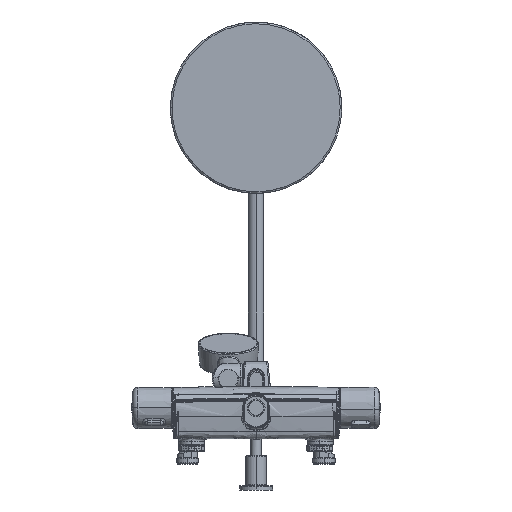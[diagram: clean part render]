
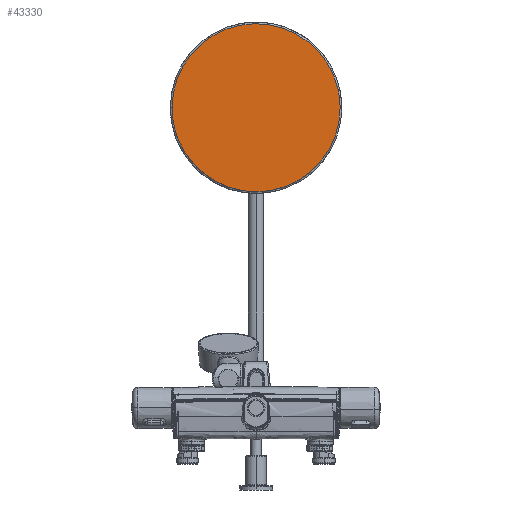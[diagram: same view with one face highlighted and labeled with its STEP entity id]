
A CAD part, front view. The second image highlights one B-rep face of the part: STEP entity #43330.
In plain terms, the highlighted planar face has unit normal (0, -1, 0).
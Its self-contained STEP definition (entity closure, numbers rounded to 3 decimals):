
#387 = CARTESIAN_POINT ( 'NONE',  ( 77.921, 984.9, 409.779 ) ) ;
#780 = CARTESIAN_POINT ( 'NONE',  ( 94.866, 984.9, 375.41 ) ) ;
#3713 = CARTESIAN_POINT ( 'NONE',  ( 25.41, 984.9, 255.134 ) ) ;
#3907 = CARTESIAN_POINT ( 'NONE',  ( 31.577, 984.9, 257.005 ) ) ;
#5060 = CARTESIAN_POINT ( 'NONE',  ( -98., 984.9, 356.414 ) ) ;
#6749 = EDGE_CURVE ( 'NONE', #31972, #8617, #25118, .T. ) ;
#8617 = VERTEX_POINT ( 'NONE', #41503 ) ;
#8777 = CARTESIAN_POINT ( 'NONE',  ( 59.779, 984.9, 272.079 ) ) ;
#9366 = CARTESIAN_POINT ( 'NONE',  ( -85.048, 984.9, 399.113 ) ) ;
#9748 = CARTESIAN_POINT ( 'NONE',  ( -12.828, 984.9, 447.368 ) ) ;
#9956 = CARTESIAN_POINT ( 'NONE',  ( -49.113, 984.9, 435.048 ) ) ;
#10158 = CARTESIAN_POINT ( 'NONE',  ( -92.995, 984.9, 381.577 ) ) ;
#11178 = B_SPLINE_CURVE_WITH_KNOTS ( 'NONE', 3,
 ( #54489, #50019, #59831, #41828, #31706, #22511, #55309, #50221, #54906, #27662, #8777, #22095, #12869, #3907, #3713, #17794, #37082, #27233, #31924, #26826, #36487, #46153, #50829, #59623, #51044, #45951, #41209, #55521, #13093, #60041, #50624, #13702, #36678, #13492 ),
 .UNSPECIFIED., .F., .F.,
 ( 4, 2, 2, 2, 2, 2, 2, 2, 2, 2, 2, 2, 2, 2, 2, 2, 4 ),
 ( 0., 0.031, 0.063, 0.094, 0.125, 0.156, 0.188, 0.219, 0.25, 0.281, 0.313, 0.344, 0.375, 0.406, 0.438, 0.469, 0.5 ),
 .UNSPECIFIED. ) ;
#12869 = CARTESIAN_POINT ( 'NONE',  ( 43.429, 984.9, 261.914 ) ) ;
#13093 = CARTESIAN_POINT ( 'NONE',  ( -88.086, 984.9, 306.571 ) ) ;
#13492 = CARTESIAN_POINT ( 'NONE',  ( -98., 984.9, 350. ) ) ;
#13702 = CARTESIAN_POINT ( 'NONE',  ( -97.368, 984.9, 337.172 ) ) ;
#14050 = DIRECTION ( 'NONE',  ( 1., 0., 0. ) ) ;
#14079 = CARTESIAN_POINT ( 'NONE',  ( 43.429, 984.9, 438.086 ) ) ;
#14106 = CARTESIAN_POINT ( 'NONE',  ( -98., 984.9, 350. ) ) ;
#14821 = CARTESIAN_POINT ( 'NONE',  ( 0., 984.9, 350. ) ) ;
#14852 = CARTESIAN_POINT ( 'NONE',  ( -77.921, 984.9, 409.779 ) ) ;
#17794 = CARTESIAN_POINT ( 'NONE',  ( 12.828, 984.9, 252.632 ) ) ;
#17899 = EDGE_LOOP ( 'NONE', ( #17917, #53024 ) ) ;
#17917 = ORIENTED_EDGE ( 'NONE', *, *, #37529, .F. ) ;
#19549 = PLANE ( 'NONE',  #41541 ) ;
#22095 = CARTESIAN_POINT ( 'NONE',  ( 49.113, 984.9, 264.952 ) ) ;
#22511 = CARTESIAN_POINT ( 'NONE',  ( 88.086, 984.9, 306.571 ) ) ;
#23679 = CARTESIAN_POINT ( 'NONE',  ( 97.368, 984.9, 362.828 ) ) ;
#25118 = B_SPLINE_CURVE_WITH_KNOTS ( 'NONE', 3,
 ( #28412, #5060, #43005, #47116, #10158, #38270, #9366, #14852, #56898, #51606, #37872, #9956, #42210, #32900, #31882, #9748, #37662, #37469, #55266, #28603, #38073, #14079, #33295, #47326, #42600, #47528, #387, #47731, #27195, #60002, #780, #23679, #56499, #46932 ),
 .UNSPECIFIED., .F., .F.,
 ( 4, 2, 2, 2, 2, 2, 2, 2, 2, 2, 2, 2, 2, 2, 2, 2, 4 ),
 ( 0.5, 0.531, 0.563, 0.594, 0.625, 0.656, 0.688, 0.719, 0.75, 0.781, 0.813, 0.844, 0.875, 0.906, 0.938, 0.969, 1. ),
 .UNSPECIFIED. ) ;
#26826 = CARTESIAN_POINT ( 'NONE',  ( -25.41, 984.9, 255.134 ) ) ;
#27195 = CARTESIAN_POINT ( 'NONE',  ( 88.086, 984.9, 393.429 ) ) ;
#27233 = CARTESIAN_POINT ( 'NONE',  ( -6.414, 984.9, 252. ) ) ;
#27662 = CARTESIAN_POINT ( 'NONE',  ( 64.761, 984.9, 276.168 ) ) ;
#28412 = CARTESIAN_POINT ( 'NONE',  ( -98., 984.9, 350. ) ) ;
#28603 = CARTESIAN_POINT ( 'NONE',  ( 25.41, 984.9, 444.866 ) ) ;
#31706 = CARTESIAN_POINT ( 'NONE',  ( 92.995, 984.9, 318.423 ) ) ;
#31882 = CARTESIAN_POINT ( 'NONE',  ( -25.41, 984.9, 444.866 ) ) ;
#31924 = CARTESIAN_POINT ( 'NONE',  ( -12.828, 984.9, 252.632 ) ) ;
#31972 = VERTEX_POINT ( 'NONE', #14106 ) ;
#32900 = CARTESIAN_POINT ( 'NONE',  ( -31.577, 984.9, 442.995 ) ) ;
#33295 = CARTESIAN_POINT ( 'NONE',  ( 49.113, 984.9, 435.048 ) ) ;
#36487 = CARTESIAN_POINT ( 'NONE',  ( -31.577, 984.9, 257.005 ) ) ;
#36678 = CARTESIAN_POINT ( 'NONE',  ( -98., 984.9, 343.586 ) ) ;
#37082 = CARTESIAN_POINT ( 'NONE',  ( 6.414, 984.9, 252. ) ) ;
#37469 = CARTESIAN_POINT ( 'NONE',  ( 6.414, 984.9, 448. ) ) ;
#37529 = EDGE_CURVE ( 'NONE', #8617, #31972, #11178, .T. ) ;
#37662 = CARTESIAN_POINT ( 'NONE',  ( -6.414, 984.9, 448. ) ) ;
#37842 = DIRECTION ( 'NONE',  ( 0., 1., 0. ) ) ;
#37872 = CARTESIAN_POINT ( 'NONE',  ( -59.779, 984.9, 427.921 ) ) ;
#38073 = CARTESIAN_POINT ( 'NONE',  ( 31.577, 984.9, 442.995 ) ) ;
#38270 = CARTESIAN_POINT ( 'NONE',  ( -88.086, 984.9, 393.429 ) ) ;
#41209 = CARTESIAN_POINT ( 'NONE',  ( -77.921, 984.9, 290.221 ) ) ;
#41503 = CARTESIAN_POINT ( 'NONE',  ( 98., 984.9, 350. ) ) ;
#41541 = AXIS2_PLACEMENT_3D ( 'NONE', #14821, #37842, #14050 ) ;
#41828 = CARTESIAN_POINT ( 'NONE',  ( 94.866, 984.9, 324.59 ) ) ;
#42210 = CARTESIAN_POINT ( 'NONE',  ( -43.429, 984.9, 438.086 ) ) ;
#42600 = CARTESIAN_POINT ( 'NONE',  ( 64.761, 984.9, 423.832 ) ) ;
#43005 = CARTESIAN_POINT ( 'NONE',  ( -97.368, 984.9, 362.828 ) ) ;
#43330 = ADVANCED_FACE ( 'NONE', ( #50682 ), #19549, .F. ) ;
#45951 = CARTESIAN_POINT ( 'NONE',  ( -73.832, 984.9, 285.239 ) ) ;
#46153 = CARTESIAN_POINT ( 'NONE',  ( -43.429, 984.9, 261.914 ) ) ;
#46932 = CARTESIAN_POINT ( 'NONE',  ( 98., 984.9, 350. ) ) ;
#47116 = CARTESIAN_POINT ( 'NONE',  ( -94.866, 984.9, 375.41 ) ) ;
#47326 = CARTESIAN_POINT ( 'NONE',  ( 59.779, 984.9, 427.921 ) ) ;
#47528 = CARTESIAN_POINT ( 'NONE',  ( 73.832, 984.9, 414.761 ) ) ;
#47731 = CARTESIAN_POINT ( 'NONE',  ( 85.048, 984.9, 399.113 ) ) ;
#50019 = CARTESIAN_POINT ( 'NONE',  ( 98., 984.9, 343.586 ) ) ;
#50221 = CARTESIAN_POINT ( 'NONE',  ( 77.921, 984.9, 290.221 ) ) ;
#50624 = CARTESIAN_POINT ( 'NONE',  ( -94.866, 984.9, 324.59 ) ) ;
#50682 = FACE_OUTER_BOUND ( 'NONE', #17899, .T. ) ;
#50829 = CARTESIAN_POINT ( 'NONE',  ( -49.113, 984.9, 264.952 ) ) ;
#51044 = CARTESIAN_POINT ( 'NONE',  ( -64.761, 984.9, 276.168 ) ) ;
#51606 = CARTESIAN_POINT ( 'NONE',  ( -64.761, 984.9, 423.832 ) ) ;
#53024 = ORIENTED_EDGE ( 'NONE', *, *, #6749, .F. ) ;
#54489 = CARTESIAN_POINT ( 'NONE',  ( 98., 984.9, 350. ) ) ;
#54906 = CARTESIAN_POINT ( 'NONE',  ( 73.832, 984.9, 285.239 ) ) ;
#55266 = CARTESIAN_POINT ( 'NONE',  ( 12.828, 984.9, 447.368 ) ) ;
#55309 = CARTESIAN_POINT ( 'NONE',  ( 85.048, 984.9, 300.887 ) ) ;
#55521 = CARTESIAN_POINT ( 'NONE',  ( -85.048, 984.9, 300.887 ) ) ;
#56499 = CARTESIAN_POINT ( 'NONE',  ( 98., 984.9, 356.414 ) ) ;
#56898 = CARTESIAN_POINT ( 'NONE',  ( -73.832, 984.9, 414.761 ) ) ;
#59623 = CARTESIAN_POINT ( 'NONE',  ( -59.779, 984.9, 272.079 ) ) ;
#59831 = CARTESIAN_POINT ( 'NONE',  ( 97.368, 984.9, 337.172 ) ) ;
#60002 = CARTESIAN_POINT ( 'NONE',  ( 92.995, 984.9, 381.577 ) ) ;
#60041 = CARTESIAN_POINT ( 'NONE',  ( -92.995, 984.9, 318.423 ) ) ;
